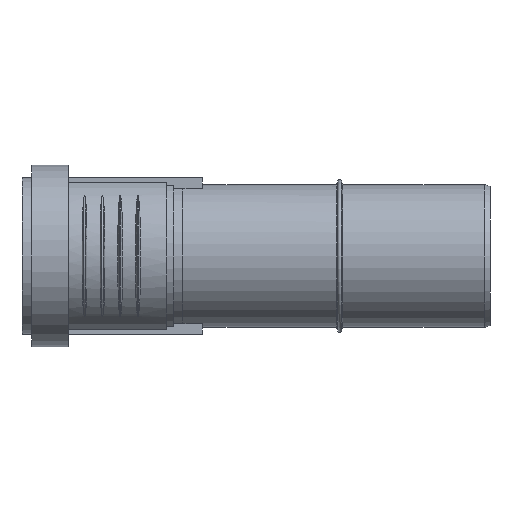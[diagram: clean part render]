
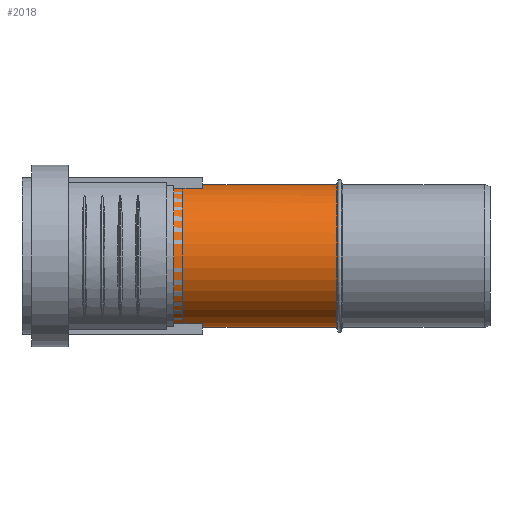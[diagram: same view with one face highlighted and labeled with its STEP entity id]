
A CAD part, left-side view. The second image highlights one B-rep face of the part: STEP entity #2018.
In plain terms, the highlighted cylindrical face has radius 25.075 mm (diameter 50.15 mm), a full revolution.
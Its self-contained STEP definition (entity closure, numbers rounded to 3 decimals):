
#174=B_SPLINE_CURVE_WITH_KNOTS($,3,(#2944,#2945,#2946,#2947,#2948,#2949,
#2950,#2951,#2952,#2953,#2954,#2955,#2956,#2957,#2958,#2959,#2960,#2961,
#2962,#2963,#2964,#2965,#2966,#2967,#2968,#2969,#2970,#2971,#2972,#2973,
#2974,#2975,#2976,#2977,#2978,#2979,#2980,#2981,#2982,#2983,#2984,#2985,
#2986,#2987,#2988,#2989,#2990,#2991,#2992,#2993),.UNSPECIFIED.,.F.,.F.,
(4,2,2,2,2,2,2,2,2,2,2,2,2,2,2,2,2,2,2,2,2,2,2,2,4),(4.622,4.81,
5.105,5.597,6.09,6.849,7.608,
8.319,9.031,9.447,9.863,10.279,
10.696,11.133,11.57,11.892,12.215,
12.538,12.861,13.298,13.735,14.151,
14.567,14.983,15.4),.UNSPECIFIED.);
#175=B_SPLINE_CURVE_WITH_KNOTS($,3,(#2994,#2995,#2996,#2997,#2998,#2999,
#3000,#3001,#3002,#3003,#3004,#3005,#3006,#3007,#3008,#3009,#3010,#3011),
 .UNSPECIFIED.,.F.,.F.,(4,2,2,2,2,2,2,2,4),(0.,0.712,1.423,
2.182,2.941,3.434,3.926,4.221,
4.409),.UNSPECIFIED.);
#363=CYLINDRICAL_SURFACE($,#2162,25.075);
#405=FACE_BOUND($,#597,.T.);
#475=FACE_OUTER_BOUND($,#596,.T.);
#596=EDGE_LOOP($,(#1355));
#597=EDGE_LOOP($,(#1356,#1357,#1358));
#768=CIRCLE($,#2149,25.075);
#775=CIRCLE($,#2161,25.075);
#865=VERTEX_POINT($,#2915);
#870=VERTEX_POINT($,#2929);
#871=VERTEX_POINT($,#2930);
#873=VERTEX_POINT($,#2943);
#1069=EDGE_CURVE($,#865,#865,#768,.T.);
#1077=EDGE_CURVE($,#870,#871,#775,.T.);
#1078=EDGE_CURVE($,#871,#873,#174,.T.);
#1079=EDGE_CURVE($,#873,#870,#175,.T.);
#1355=ORIENTED_EDGE($,*,*,#1069,.T.);
#1356=ORIENTED_EDGE($,*,*,#1077,.T.);
#1357=ORIENTED_EDGE($,*,*,#1078,.T.);
#1358=ORIENTED_EDGE($,*,*,#1079,.T.);
#2018=ADVANCED_FACE($,(#475,#405),#363,.T.);
#2149=AXIS2_PLACEMENT_3D($,#2916,#2388,#2389);
#2161=AXIS2_PLACEMENT_3D($,#2941,#2412,#2413);
#2162=AXIS2_PLACEMENT_3D($,#2942,#2414,#2415);
#2388=DIRECTION('center_axis',(0.,1.,0.));
#2389=DIRECTION('ref_axis',(1.,0.,0.));
#2412=DIRECTION('center_axis',(0.,-1.,0.));
#2413=DIRECTION('ref_axis',(1.,0.,0.));
#2414=DIRECTION('center_axis',(0.,1.,0.));
#2415=DIRECTION('ref_axis',(1.,0.,0.));
#2915=CARTESIAN_POINT('',(-25.075,53.9,0.));
#2916=CARTESIAN_POINT('Origin',(0.,53.9,0.));
#2929=CARTESIAN_POINT('',(25.051,111.14,1.088));
#2930=CARTESIAN_POINT('',(25.051,111.14,-1.088));
#2941=CARTESIAN_POINT('Origin',(0.,111.14,0.));
#2942=CARTESIAN_POINT('Origin',(0.,0.,0.));
#2943=CARTESIAN_POINT('',(15.025,72.765,20.075));
#2944=CARTESIAN_POINT('Ctrl Pts',(25.051,111.14,-1.088));
#2945=CARTESIAN_POINT('Ctrl Pts',(25.023,111.062,-1.736));
#2946=CARTESIAN_POINT('Ctrl Pts',(24.969,110.911,-2.393));
#2947=CARTESIAN_POINT('Ctrl Pts',(24.771,110.362,-4.022));
#2948=CARTESIAN_POINT('Ctrl Pts',(24.593,109.868,-4.962));
#2949=CARTESIAN_POINT('Ctrl Pts',(24.085,108.449,-7.111));
#2950=CARTESIAN_POINT('Ctrl Pts',(23.664,107.266,-8.379));
#2951=CARTESIAN_POINT('Ctrl Pts',(22.747,104.645,-10.621));
#2952=CARTESIAN_POINT('Ctrl Pts',(22.251,103.21,-11.597));
#2953=CARTESIAN_POINT('Ctrl Pts',(21.085,99.768,-13.646));
#2954=CARTESIAN_POINT('Ctrl Pts',(20.292,97.366,-14.781));
#2955=CARTESIAN_POINT('Ctrl Pts',(18.749,92.404,-16.696));
#2956=CARTESIAN_POINT('Ctrl Pts',(18.001,89.844,-17.477));
#2957=CARTESIAN_POINT('Ctrl Pts',(16.794,85.237,-18.638));
#2958=CARTESIAN_POINT('Ctrl Pts',(16.203,82.749,-19.145));
#2959=CARTESIAN_POINT('Ctrl Pts',(15.316,77.7,-19.862));
#2960=CARTESIAN_POINT('Ctrl Pts',(15.025,75.137,-20.075));
#2961=CARTESIAN_POINT('Ctrl Pts',(15.025,71.378,-20.075));
#2962=CARTESIAN_POINT('Ctrl Pts',(15.124,69.936,-20.003));
#2963=CARTESIAN_POINT('Ctrl Pts',(15.616,67.126,-19.621));
#2964=CARTESIAN_POINT('Ctrl Pts',(16.012,65.759,-19.309));
#2965=CARTESIAN_POINT('Ctrl Pts',(17.061,63.257,-18.389));
#2966=CARTESIAN_POINT('Ctrl Pts',(17.713,62.114,-17.777));
#2967=CARTESIAN_POINT('Ctrl Pts',(19.099,60.106,-16.279));
#2968=CARTESIAN_POINT('Ctrl Pts',(19.829,59.24,-15.393));
#2969=CARTESIAN_POINT('Ctrl Pts',(21.22,57.741,-13.416));
#2970=CARTESIAN_POINT('Ctrl Pts',(21.961,57.036,-12.193));
#2971=CARTESIAN_POINT('Ctrl Pts',(23.239,55.894,-9.533));
#2972=CARTESIAN_POINT('Ctrl Pts',(23.775,55.454,-8.096));
#2973=CARTESIAN_POINT('Ctrl Pts',(24.439,54.919,-5.711));
#2974=CARTESIAN_POINT('Ctrl Pts',(24.683,54.728,-4.571));
#2975=CARTESIAN_POINT('Ctrl Pts',(25.001,54.481,-2.254));
#2976=CARTESIAN_POINT('Ctrl Pts',(25.075,54.425,-1.076));
#2977=CARTESIAN_POINT('Ctrl Pts',(25.075,54.425,1.076));
#2978=CARTESIAN_POINT('Ctrl Pts',(25.001,54.481,2.254));
#2979=CARTESIAN_POINT('Ctrl Pts',(24.683,54.728,4.571));
#2980=CARTESIAN_POINT('Ctrl Pts',(24.439,54.919,5.711));
#2981=CARTESIAN_POINT('Ctrl Pts',(23.775,55.454,8.096));
#2982=CARTESIAN_POINT('Ctrl Pts',(23.239,55.894,9.533));
#2983=CARTESIAN_POINT('Ctrl Pts',(21.961,57.036,12.193));
#2984=CARTESIAN_POINT('Ctrl Pts',(21.22,57.741,13.416));
#2985=CARTESIAN_POINT('Ctrl Pts',(19.829,59.24,15.393));
#2986=CARTESIAN_POINT('Ctrl Pts',(19.099,60.106,16.279));
#2987=CARTESIAN_POINT('Ctrl Pts',(17.713,62.114,17.777));
#2988=CARTESIAN_POINT('Ctrl Pts',(17.061,63.257,18.389));
#2989=CARTESIAN_POINT('Ctrl Pts',(16.012,65.759,19.309));
#2990=CARTESIAN_POINT('Ctrl Pts',(15.616,67.126,19.621));
#2991=CARTESIAN_POINT('Ctrl Pts',(15.124,69.936,20.003));
#2992=CARTESIAN_POINT('Ctrl Pts',(15.025,71.378,20.075));
#2993=CARTESIAN_POINT('Ctrl Pts',(15.025,72.765,20.075));
#2994=CARTESIAN_POINT('Ctrl Pts',(15.025,72.765,20.075));
#2995=CARTESIAN_POINT('Ctrl Pts',(15.025,75.137,20.075));
#2996=CARTESIAN_POINT('Ctrl Pts',(15.316,77.7,19.862));
#2997=CARTESIAN_POINT('Ctrl Pts',(16.203,82.749,19.145));
#2998=CARTESIAN_POINT('Ctrl Pts',(16.794,85.237,18.638));
#2999=CARTESIAN_POINT('Ctrl Pts',(18.001,89.844,17.477));
#3000=CARTESIAN_POINT('Ctrl Pts',(18.749,92.404,16.696));
#3001=CARTESIAN_POINT('Ctrl Pts',(20.292,97.366,14.781));
#3002=CARTESIAN_POINT('Ctrl Pts',(21.085,99.768,13.646));
#3003=CARTESIAN_POINT('Ctrl Pts',(22.251,103.21,11.597));
#3004=CARTESIAN_POINT('Ctrl Pts',(22.747,104.645,10.621));
#3005=CARTESIAN_POINT('Ctrl Pts',(23.664,107.266,8.379));
#3006=CARTESIAN_POINT('Ctrl Pts',(24.085,108.449,7.111));
#3007=CARTESIAN_POINT('Ctrl Pts',(24.593,109.868,4.962));
#3008=CARTESIAN_POINT('Ctrl Pts',(24.771,110.362,4.022));
#3009=CARTESIAN_POINT('Ctrl Pts',(24.969,110.911,2.393));
#3010=CARTESIAN_POINT('Ctrl Pts',(25.023,111.062,1.736));
#3011=CARTESIAN_POINT('Ctrl Pts',(25.051,111.14,1.088));
